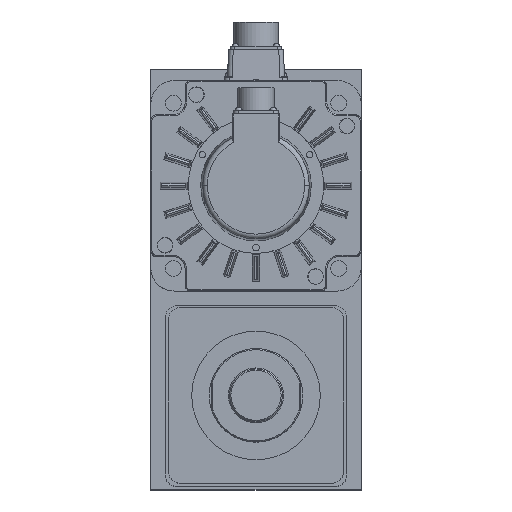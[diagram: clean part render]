
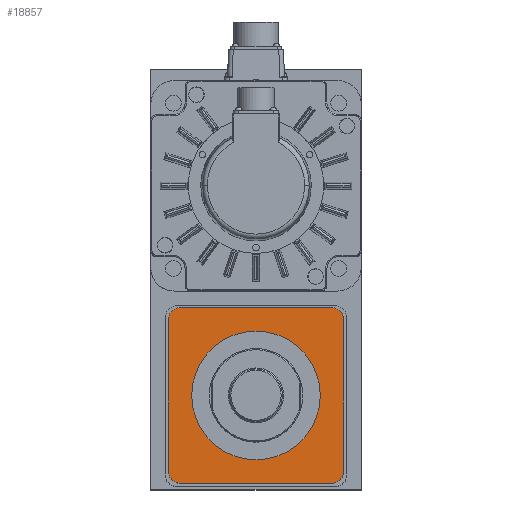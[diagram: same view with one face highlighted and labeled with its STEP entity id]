
A CAD part, top view. The second image highlights one B-rep face of the part: STEP entity #18857.
In plain terms, the highlighted planar face has unit normal (0, 0, 1).
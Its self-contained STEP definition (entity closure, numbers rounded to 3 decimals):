
#162 = CIRCLE ( 'NONE', #26504, 55. ) ;
#308 = DIRECTION ( 'NONE',  ( 0., 0., -1. ) ) ;
#404 = PLANE ( 'NONE',  #2155 ) ;
#620 = VERTEX_POINT ( 'NONE', #28152 ) ;
#1035 = DIRECTION ( 'NONE',  ( 0., 0., 1. ) ) ;
#1053 = CIRCLE ( 'NONE', #26394, 10. ) ;
#1138 = CIRCLE ( 'NONE', #22552, 10. ) ;
#1618 = EDGE_CURVE ( 'NONE', #11692, #19549, #22392, .T. ) ;
#1639 = VECTOR ( 'NONE', #23696, 1000. ) ;
#1834 = EDGE_CURVE ( 'NONE', #3076, #11692, #1053, .T. ) ;
#1890 = ORIENTED_EDGE ( 'NONE', *, *, #28570, .F. ) ;
#2155 = AXIS2_PLACEMENT_3D ( 'NONE', #20619, #308, #25311 ) ;
#2252 = ORIENTED_EDGE ( 'NONE', *, *, #28619, .T. ) ;
#2645 = EDGE_CURVE ( 'NONE', #21929, #5440, #22695, .T. ) ;
#2752 = DIRECTION ( 'NONE',  ( 0., 0., -1. ) ) ;
#3076 = VERTEX_POINT ( 'NONE', #14628 ) ;
#3132 = CARTESIAN_POINT ( 'NONE',  ( 65., 65., 315. ) ) ;
#3763 = VECTOR ( 'NONE', #18270, 1000. ) ;
#4438 = CIRCLE ( 'NONE', #27197, 10. ) ;
#4713 = EDGE_CURVE ( 'NONE', #12893, #19549, #4438, .T. ) ;
#4865 = LINE ( 'NONE', #19555, #6293 ) ;
#4914 = CARTESIAN_POINT ( 'NONE',  ( -65., -75., 315. ) ) ;
#5421 = FACE_BOUND ( 'NONE', #13653, .T. ) ;
#5440 = VERTEX_POINT ( 'NONE', #18283 ) ;
#5892 = VERTEX_POINT ( 'NONE', #6338 ) ;
#6250 = DIRECTION ( 'NONE',  ( -1., 0., 0. ) ) ;
#6293 = VECTOR ( 'NONE', #10580, 1000. ) ;
#6338 = CARTESIAN_POINT ( 'NONE',  ( 65., 75., 315. ) ) ;
#6590 = LINE ( 'NONE', #16672, #3763 ) ;
#7041 = DIRECTION ( 'NONE',  ( 0., 0., 1. ) ) ;
#7336 = LINE ( 'NONE', #19639, #1639 ) ;
#7806 = EDGE_CURVE ( 'NONE', #620, #5892, #1138, .T. ) ;
#8158 = DIRECTION ( 'NONE',  ( 1., 0., 0. ) ) ;
#10580 = DIRECTION ( 'NONE',  ( 0., -1., 0. ) ) ;
#10826 = AXIS2_PLACEMENT_3D ( 'NONE', #17550, #17170, #26439 ) ;
#10929 = VERTEX_POINT ( 'NONE', #26366 ) ;
#10965 = CARTESIAN_POINT ( 'NONE',  ( 75., -65., 315. ) ) ;
#11172 = AXIS2_PLACEMENT_3D ( 'NONE', #22913, #2752, #18763 ) ;
#11548 = EDGE_CURVE ( 'NONE', #13811, #3076, #4865, .T. ) ;
#11692 = VERTEX_POINT ( 'NONE', #4914 ) ;
#12105 = VECTOR ( 'NONE', #8158, 1000. ) ;
#12893 = VERTEX_POINT ( 'NONE', #10965 ) ;
#13411 = ORIENTED_EDGE ( 'NONE', *, *, #1618, .T. ) ;
#13653 = EDGE_LOOP ( 'NONE', ( #27004, #1890 ) ) ;
#13811 = VERTEX_POINT ( 'NONE', #24220 ) ;
#13868 = ORIENTED_EDGE ( 'NONE', *, *, #11548, .T. ) ;
#14628 = CARTESIAN_POINT ( 'NONE',  ( -75., -65., 315. ) ) ;
#14646 = FACE_OUTER_BOUND ( 'NONE', #24890, .T. ) ;
#14937 = ORIENTED_EDGE ( 'NONE', *, *, #22053, .F. ) ;
#15586 = CARTESIAN_POINT ( 'NONE',  ( 0., 0., 315. ) ) ;
#16672 = CARTESIAN_POINT ( 'NONE',  ( 100., 75., 315. ) ) ;
#17170 = DIRECTION ( 'NONE',  ( 0., 0., 1. ) ) ;
#17550 = CARTESIAN_POINT ( 'NONE',  ( 0., 0., 315. ) ) ;
#17706 = CARTESIAN_POINT ( 'NONE',  ( 100., -75., 315. ) ) ;
#18079 = CARTESIAN_POINT ( 'NONE',  ( -55., 0., 315. ) ) ;
#18207 = CARTESIAN_POINT ( 'NONE',  ( 65., -65., 315. ) ) ;
#18270 = DIRECTION ( 'NONE',  ( -1., 0., 0. ) ) ;
#18283 = CARTESIAN_POINT ( 'NONE',  ( 55., 0., 315. ) ) ;
#18293 = DIRECTION ( 'NONE',  ( 1., 0., 0. ) ) ;
#18763 = DIRECTION ( 'NONE',  ( 1., 0., 0. ) ) ;
#18857 = ADVANCED_FACE ( 'NONE', ( #5421, #14646 ), #404, .F. ) ;
#19549 = VERTEX_POINT ( 'NONE', #26265 ) ;
#19555 = CARTESIAN_POINT ( 'NONE',  ( -75., 0., 315. ) ) ;
#19639 = CARTESIAN_POINT ( 'NONE',  ( 75., 0., 315. ) ) ;
#20619 = CARTESIAN_POINT ( 'NONE',  ( 0., 0., 315. ) ) ;
#20686 = DIRECTION ( 'NONE',  ( 1., 0., 0. ) ) ;
#20870 = CARTESIAN_POINT ( 'NONE',  ( -65., -65., 315. ) ) ;
#21929 = VERTEX_POINT ( 'NONE', #18079 ) ;
#22053 = EDGE_CURVE ( 'NONE', #13811, #10929, #22931, .T. ) ;
#22299 = ORIENTED_EDGE ( 'NONE', *, *, #4713, .F. ) ;
#22392 = LINE ( 'NONE', #17706, #12105 ) ;
#22552 = AXIS2_PLACEMENT_3D ( 'NONE', #3132, #1035, #25631 ) ;
#22624 = ORIENTED_EDGE ( 'NONE', *, *, #1834, .T. ) ;
#22695 = CIRCLE ( 'NONE', #10826, 55. ) ;
#22913 = CARTESIAN_POINT ( 'NONE',  ( -65., 65., 315. ) ) ;
#22931 = CIRCLE ( 'NONE', #11172, 10. ) ;
#23068 = ORIENTED_EDGE ( 'NONE', *, *, #7806, .T. ) ;
#23696 = DIRECTION ( 'NONE',  ( 0., -1., 0. ) ) ;
#24220 = CARTESIAN_POINT ( 'NONE',  ( -75., 65., 315. ) ) ;
#24826 = DIRECTION ( 'NONE',  ( 0., 0., -1. ) ) ;
#24890 = EDGE_LOOP ( 'NONE', ( #22624, #13411, #22299, #24997, #23068, #2252, #14937, #13868 ) ) ;
#24997 = ORIENTED_EDGE ( 'NONE', *, *, #27204, .F. ) ;
#25311 = DIRECTION ( 'NONE',  ( -1., 0., 0. ) ) ;
#25631 = DIRECTION ( 'NONE',  ( 1., 0., 0. ) ) ;
#26265 = CARTESIAN_POINT ( 'NONE',  ( 65., -75., 315. ) ) ;
#26366 = CARTESIAN_POINT ( 'NONE',  ( -65., 75., 315. ) ) ;
#26394 = AXIS2_PLACEMENT_3D ( 'NONE', #20870, #7041, #20686 ) ;
#26439 = DIRECTION ( 'NONE',  ( -1., 0., 0. ) ) ;
#26504 = AXIS2_PLACEMENT_3D ( 'NONE', #15586, #29069, #6250 ) ;
#27004 = ORIENTED_EDGE ( 'NONE', *, *, #2645, .F. ) ;
#27197 = AXIS2_PLACEMENT_3D ( 'NONE', #18207, #24826, #18293 ) ;
#27204 = EDGE_CURVE ( 'NONE', #620, #12893, #7336, .T. ) ;
#28152 = CARTESIAN_POINT ( 'NONE',  ( 75., 65., 315. ) ) ;
#28570 = EDGE_CURVE ( 'NONE', #5440, #21929, #162, .T. ) ;
#28619 = EDGE_CURVE ( 'NONE', #5892, #10929, #6590, .T. ) ;
#29069 = DIRECTION ( 'NONE',  ( 0., 0., 1. ) ) ;
